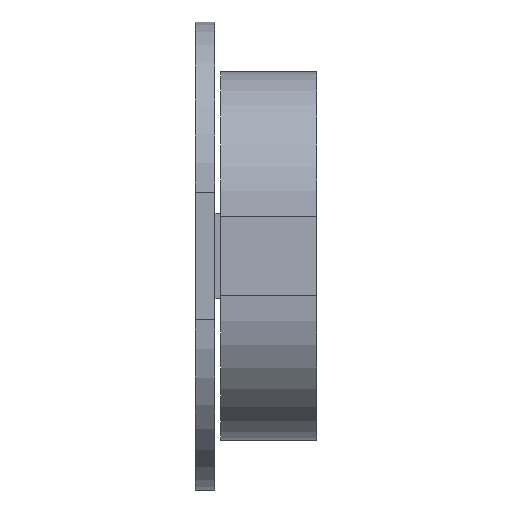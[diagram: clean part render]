
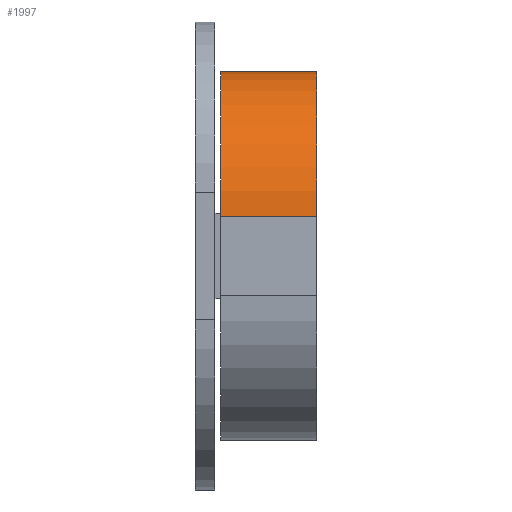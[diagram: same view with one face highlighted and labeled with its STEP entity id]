
A CAD part, front view. The second image highlights one B-rep face of the part: STEP entity #1997.
In plain terms, the highlighted cylindrical face has radius 5.1 mm (diameter 10.2 mm), a partial arc.
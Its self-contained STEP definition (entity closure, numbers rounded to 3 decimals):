
#1150 = PLANE('',#1151);
#1151 = AXIS2_PLACEMENT_3D('',#1152,#1153,#1154);
#1152 = CARTESIAN_POINT('',(40.9,20.5,6.5));
#1153 = DIRECTION('',(1.,0.,0.));
#1154 = DIRECTION('',(0.,0.,-1.));
#1492 = VERTEX_POINT('',#1493);
#1493 = CARTESIAN_POINT('',(40.9,25.6,6.5));
#1509 = PLANE('',#1510);
#1510 = AXIS2_PLACEMENT_3D('',#1511,#1512,#1513);
#1511 = CARTESIAN_POINT('',(40.9,20.5,6.5));
#1512 = DIRECTION('',(0.,0.,-1.));
#1513 = DIRECTION('',(1.,0.,0.));
#1521 = EDGE_CURVE('',#1492,#1522,#1524,.T.);
#1522 = VERTEX_POINT('',#1523);
#1523 = CARTESIAN_POINT('',(40.9,20.5,1.4));
#1524 = SURFACE_CURVE('',#1525,(#1530,#1537),.PCURVE_S1.);
#1525 = CIRCLE('',#1526,5.1);
#1526 = AXIS2_PLACEMENT_3D('',#1527,#1528,#1529);
#1527 = CARTESIAN_POINT('',(40.9,25.6,1.4));
#1528 = DIRECTION('',(1.,0.,0.));
#1529 = DIRECTION('',(0.,-1.,0.));
#1530 = PCURVE('',#1150,#1531);
#1531 = DEFINITIONAL_REPRESENTATION('',(#1532),#1536);
#1532 = CIRCLE('',#1533,5.1);
#1533 = AXIS2_PLACEMENT_2D('',#1534,#1535);
#1534 = CARTESIAN_POINT('',(5.1,5.1));
#1535 = DIRECTION('',(0.,-1.));
#1536 = ( GEOMETRIC_REPRESENTATION_CONTEXT(2) 
PARAMETRIC_REPRESENTATION_CONTEXT() REPRESENTATION_CONTEXT('2D SPACE',''
  ) );
#1537 = PCURVE('',#1538,#1543);
#1538 = CYLINDRICAL_SURFACE('',#1539,5.1);
#1539 = AXIS2_PLACEMENT_3D('',#1540,#1541,#1542);
#1540 = CARTESIAN_POINT('',(40.9,25.6,1.4));
#1541 = DIRECTION('',(1.,0.,0.));
#1542 = DIRECTION('',(0.,0.,1.));
#1543 = DEFINITIONAL_REPRESENTATION('',(#1544),#1548);
#1544 = LINE('',#1545,#1546);
#1545 = CARTESIAN_POINT('',(-4.712,0.));
#1546 = VECTOR('',#1547,1.);
#1547 = DIRECTION('',(1.,0.));
#1548 = ( GEOMETRIC_REPRESENTATION_CONTEXT(2) 
PARAMETRIC_REPRESENTATION_CONTEXT() REPRESENTATION_CONTEXT('2D SPACE',''
  ) );
#1566 = PLANE('',#1567);
#1567 = AXIS2_PLACEMENT_3D('',#1568,#1569,#1570);
#1568 = CARTESIAN_POINT('',(40.9,20.5,6.5));
#1569 = DIRECTION('',(0.,1.,0.));
#1570 = DIRECTION('',(1.,-0.,0.));
#1849 = VERTEX_POINT('',#1850);
#1850 = CARTESIAN_POINT('',(44.3,25.6,6.5));
#1866 = PLANE('',#1867);
#1867 = AXIS2_PLACEMENT_3D('',#1868,#1869,#1870);
#1868 = CARTESIAN_POINT('',(44.3,20.5,6.5));
#1869 = DIRECTION('',(1.,0.,0.));
#1870 = DIRECTION('',(0.,0.,-1.));
#1878 = EDGE_CURVE('',#1492,#1849,#1879,.T.);
#1879 = SURFACE_CURVE('',#1880,(#1884,#1891),.PCURVE_S1.);
#1880 = LINE('',#1881,#1882);
#1881 = CARTESIAN_POINT('',(40.9,25.6,6.5));
#1882 = VECTOR('',#1883,1.);
#1883 = DIRECTION('',(1.,0.,0.));
#1884 = PCURVE('',#1509,#1885);
#1885 = DEFINITIONAL_REPRESENTATION('',(#1886),#1890);
#1886 = LINE('',#1887,#1888);
#1887 = CARTESIAN_POINT('',(0.,-5.1));
#1888 = VECTOR('',#1889,1.);
#1889 = DIRECTION('',(1.,0.));
#1890 = ( GEOMETRIC_REPRESENTATION_CONTEXT(2) 
PARAMETRIC_REPRESENTATION_CONTEXT() REPRESENTATION_CONTEXT('2D SPACE',''
  ) );
#1891 = PCURVE('',#1538,#1892);
#1892 = DEFINITIONAL_REPRESENTATION('',(#1893),#1897);
#1893 = LINE('',#1894,#1895);
#1894 = CARTESIAN_POINT('',(0.,0.));
#1895 = VECTOR('',#1896,1.);
#1896 = DIRECTION('',(0.,1.));
#1897 = ( GEOMETRIC_REPRESENTATION_CONTEXT(2) 
PARAMETRIC_REPRESENTATION_CONTEXT() REPRESENTATION_CONTEXT('2D SPACE',''
  ) );
#1997 = ADVANCED_FACE('',(#1998),#1538,.T.);
#1998 = FACE_BOUND('',#1999,.T.);
#1999 = EDGE_LOOP('',(#2000,#2001,#2024,#2046));
#2000 = ORIENTED_EDGE('',*,*,#1521,.T.);
#2001 = ORIENTED_EDGE('',*,*,#2002,.T.);
#2002 = EDGE_CURVE('',#1522,#2003,#2005,.T.);
#2003 = VERTEX_POINT('',#2004);
#2004 = CARTESIAN_POINT('',(44.3,20.5,1.4));
#2005 = SURFACE_CURVE('',#2006,(#2010,#2017),.PCURVE_S1.);
#2006 = LINE('',#2007,#2008);
#2007 = CARTESIAN_POINT('',(40.9,20.5,1.4));
#2008 = VECTOR('',#2009,1.);
#2009 = DIRECTION('',(1.,0.,0.));
#2010 = PCURVE('',#1538,#2011);
#2011 = DEFINITIONAL_REPRESENTATION('',(#2012),#2016);
#2012 = LINE('',#2013,#2014);
#2013 = CARTESIAN_POINT('',(1.571,0.));
#2014 = VECTOR('',#2015,1.);
#2015 = DIRECTION('',(0.,1.));
#2016 = ( GEOMETRIC_REPRESENTATION_CONTEXT(2) 
PARAMETRIC_REPRESENTATION_CONTEXT() REPRESENTATION_CONTEXT('2D SPACE',''
  ) );
#2017 = PCURVE('',#1566,#2018);
#2018 = DEFINITIONAL_REPRESENTATION('',(#2019),#2023);
#2019 = LINE('',#2020,#2021);
#2020 = CARTESIAN_POINT('',(0.,5.1));
#2021 = VECTOR('',#2022,1.);
#2022 = DIRECTION('',(1.,0.));
#2023 = ( GEOMETRIC_REPRESENTATION_CONTEXT(2) 
PARAMETRIC_REPRESENTATION_CONTEXT() REPRESENTATION_CONTEXT('2D SPACE',''
  ) );
#2024 = ORIENTED_EDGE('',*,*,#2025,.F.);
#2025 = EDGE_CURVE('',#1849,#2003,#2026,.T.);
#2026 = SURFACE_CURVE('',#2027,(#2032,#2039),.PCURVE_S1.);
#2027 = CIRCLE('',#2028,5.1);
#2028 = AXIS2_PLACEMENT_3D('',#2029,#2030,#2031);
#2029 = CARTESIAN_POINT('',(44.3,25.6,1.4));
#2030 = DIRECTION('',(1.,0.,0.));
#2031 = DIRECTION('',(0.,-1.,0.));
#2032 = PCURVE('',#1538,#2033);
#2033 = DEFINITIONAL_REPRESENTATION('',(#2034),#2038);
#2034 = LINE('',#2035,#2036);
#2035 = CARTESIAN_POINT('',(-4.712,3.4));
#2036 = VECTOR('',#2037,1.);
#2037 = DIRECTION('',(1.,0.));
#2038 = ( GEOMETRIC_REPRESENTATION_CONTEXT(2) 
PARAMETRIC_REPRESENTATION_CONTEXT() REPRESENTATION_CONTEXT('2D SPACE',''
  ) );
#2039 = PCURVE('',#1866,#2040);
#2040 = DEFINITIONAL_REPRESENTATION('',(#2041),#2045);
#2041 = CIRCLE('',#2042,5.1);
#2042 = AXIS2_PLACEMENT_2D('',#2043,#2044);
#2043 = CARTESIAN_POINT('',(5.1,5.1));
#2044 = DIRECTION('',(0.,-1.));
#2045 = ( GEOMETRIC_REPRESENTATION_CONTEXT(2) 
PARAMETRIC_REPRESENTATION_CONTEXT() REPRESENTATION_CONTEXT('2D SPACE',''
  ) );
#2046 = ORIENTED_EDGE('',*,*,#1878,.F.);
